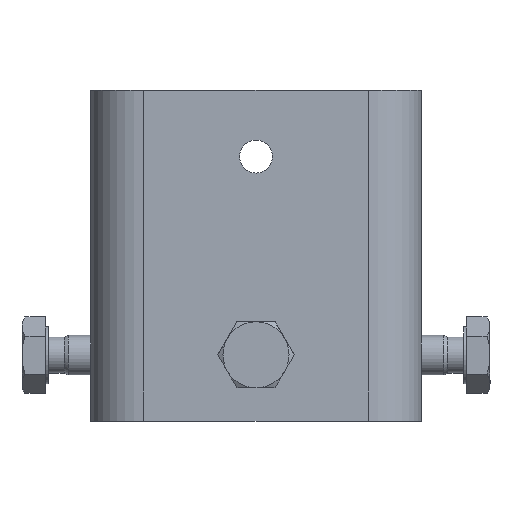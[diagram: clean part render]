
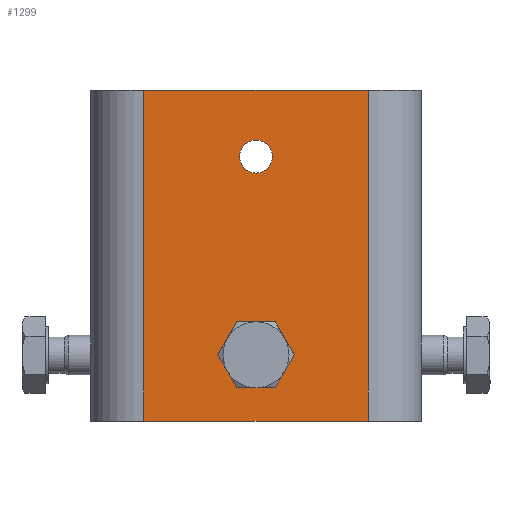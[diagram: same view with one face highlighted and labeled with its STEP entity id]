
A CAD part, top view. The second image highlights one B-rep face of the part: STEP entity #1299.
In plain terms, the highlighted planar face has unit normal (0, 0, 1).
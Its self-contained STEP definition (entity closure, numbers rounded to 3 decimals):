
#55=FACE_BOUND('',#184,.T.);
#56=FACE_BOUND('',#185,.T.);
#98=FACE_OUTER_BOUND('',#183,.T.);
#183=EDGE_LOOP('',(#881,#882,#883,#884));
#184=EDGE_LOOP('',(#885,#886));
#185=EDGE_LOOP('',(#887));
#284=LINE('',#2050,#395);
#286=LINE('',#2054,#397);
#287=LINE('',#2056,#398);
#288=LINE('',#2057,#399);
#395=VECTOR('',#1625,10.);
#397=VECTOR('',#1629,10.);
#398=VECTOR('',#1630,10.);
#399=VECTOR('',#1631,10.);
#504=CIRCLE('',#1452,2.459);
#505=CIRCLE('',#1453,2.459);
#506=CIRCLE('',#1454,2.5);
#569=VERTEX_POINT('',#2034);
#572=VERTEX_POINT('',#2041);
#574=VERTEX_POINT('',#2053);
#575=VERTEX_POINT('',#2055);
#576=VERTEX_POINT('',#2058);
#577=VERTEX_POINT('',#2059);
#578=VERTEX_POINT('',#2062);
#686=EDGE_CURVE('',#569,#572,#284,.T.);
#688=EDGE_CURVE('',#572,#574,#286,.T.);
#689=EDGE_CURVE('',#574,#575,#287,.T.);
#690=EDGE_CURVE('',#575,#569,#288,.T.);
#691=EDGE_CURVE('',#576,#577,#504,.T.);
#692=EDGE_CURVE('',#577,#576,#505,.T.);
#693=EDGE_CURVE('',#578,#578,#506,.T.);
#881=ORIENTED_EDGE('',*,*,#686,.T.);
#882=ORIENTED_EDGE('',*,*,#688,.T.);
#883=ORIENTED_EDGE('',*,*,#689,.T.);
#884=ORIENTED_EDGE('',*,*,#690,.T.);
#885=ORIENTED_EDGE('',*,*,#691,.T.);
#886=ORIENTED_EDGE('',*,*,#692,.T.);
#887=ORIENTED_EDGE('',*,*,#693,.T.);
#1245=PLANE('',#1451);
#1299=ADVANCED_FACE('',(#98,#55,#56),#1245,.T.);
#1451=AXIS2_PLACEMENT_3D('',#2052,#1627,#1628);
#1452=AXIS2_PLACEMENT_3D('',#2060,#1632,#1633);
#1453=AXIS2_PLACEMENT_3D('',#2061,#1634,#1635);
#1454=AXIS2_PLACEMENT_3D('',#2063,#1636,#1637);
#1625=DIRECTION('',(0.,1.,0.));
#1627=DIRECTION('center_axis',(0.,0.,1.));
#1628=DIRECTION('ref_axis',(1.,0.,0.));
#1629=DIRECTION('',(-1.,0.,0.));
#1630=DIRECTION('',(0.,-1.,0.));
#1631=DIRECTION('',(1.,0.,0.));
#1632=DIRECTION('center_axis',(0.,0.,-1.));
#1633=DIRECTION('ref_axis',(1.,0.,0.));
#1634=DIRECTION('center_axis',(0.,0.,-1.));
#1635=DIRECTION('ref_axis',(1.,0.,0.));
#1636=DIRECTION('center_axis',(0.,0.,-1.));
#1637=DIRECTION('ref_axis',(-1.,0.,0.));
#2034=CARTESIAN_POINT('',(17.,-25.,0.));
#2041=CARTESIAN_POINT('',(17.,25.,0.));
#2050=CARTESIAN_POINT('',(17.,12.5,0.));
#2052=CARTESIAN_POINT('Origin',(64.836,0.,0.));
#2053=CARTESIAN_POINT('',(-17.,25.,0.));
#2054=CARTESIAN_POINT('',(67.679,25.,0.));
#2055=CARTESIAN_POINT('',(-17.,-25.,0.));
#2056=CARTESIAN_POINT('',(-17.,-12.5,0.));
#2057=CARTESIAN_POINT('',(-67.679,-25.,0.));
#2058=CARTESIAN_POINT('',(2.459,-15.,0.));
#2059=CARTESIAN_POINT('',(-2.459,-15.,0.));
#2060=CARTESIAN_POINT('Origin',(0.,-15.,0.));
#2061=CARTESIAN_POINT('Origin',(0.,-15.,0.));
#2062=CARTESIAN_POINT('',(2.5,15.,0.));
#2063=CARTESIAN_POINT('Origin',(0.,15.,0.));
